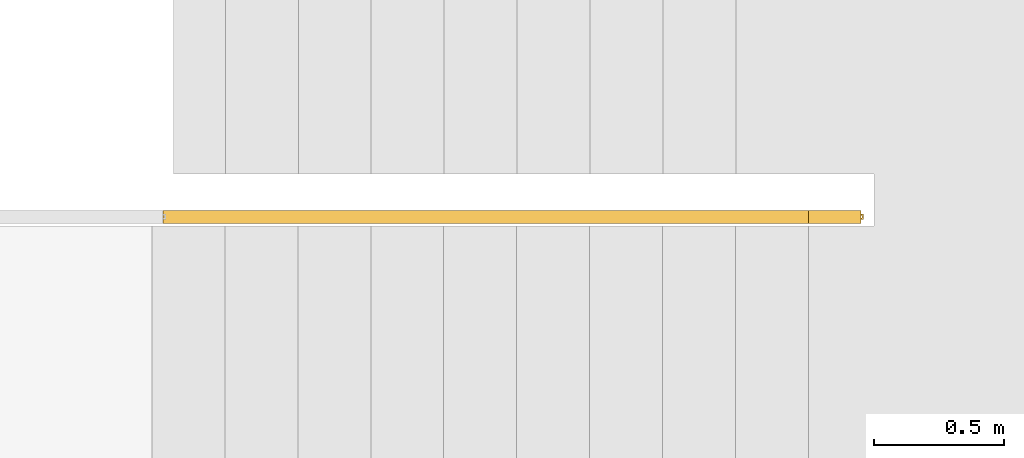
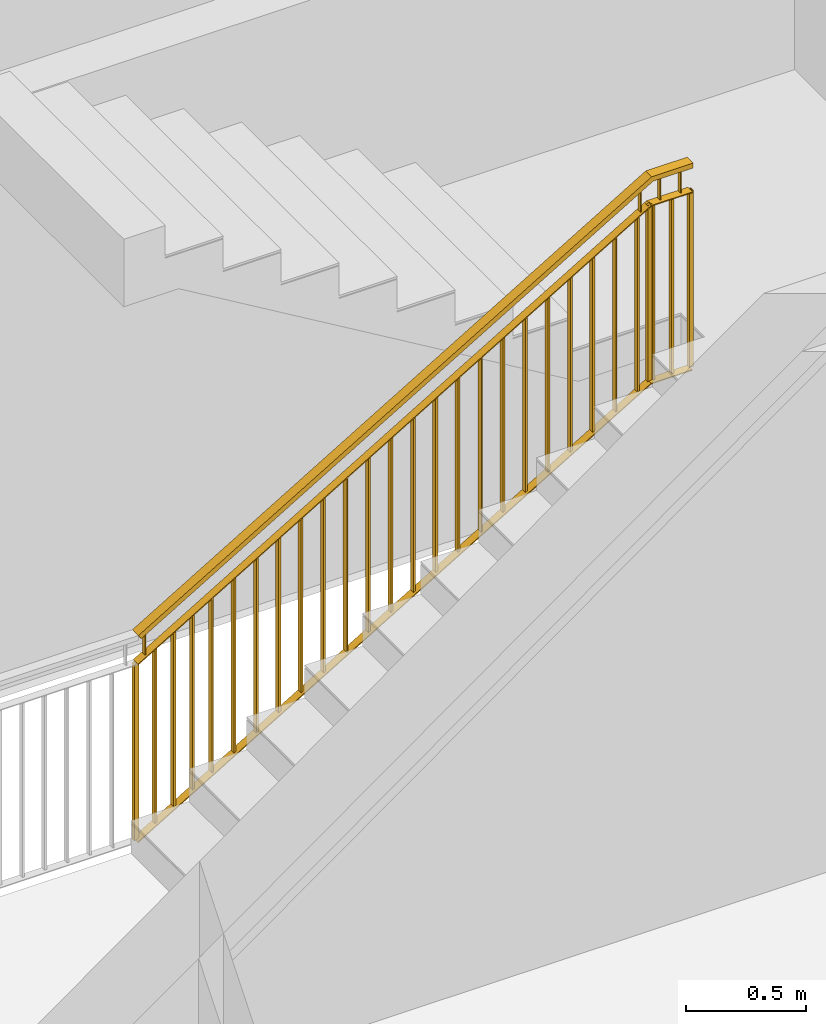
# One storey, part 4 of 67: 1 railing.
"""IFC2X3 building model written with IfcOpenShell, lengths in millimetres."""

from ifc_helpers import new_model, entity, si_unit, converted_unit, derived_unit, money_unit, direction, frame, origin_with_axes, place, context, subcontext, project, spatial, faceted_brep, material, material_list, type_object, element, save


model = new_model("IFC2X3")

# Units and contexts
model_context = context("Model", 3, precision=0.01, world=origin_with_axes(), true_north=direction((0.34421633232, 0.938890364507)))
body_context = subcontext(model_context, "Body", "Model", "MODEL_VIEW")
ifc_project = project(units=[si_unit("LENGTHUNIT", "METRE", prefix="MILLI"), si_unit("AREAUNIT", "SQUARE_METRE"), si_unit("VOLUMEUNIT", "CUBIC_METRE"), converted_unit("PLANEANGLEUNIT", "DEGREE", entity("IfcPlaneAngleMeasure", 0.0174532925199), si_unit("PLANEANGLEUNIT", "RADIAN"), dimensions=[0, 0, 0, 0, 0, 0, 0]), si_unit("SOLIDANGLEUNIT", "STERADIAN"), money_unit("USD"), converted_unit("TIMEUNIT", "Year", entity("IfcTimeMeasure", 31556926.0), si_unit("TIMEUNIT", "SECOND"), dimensions=[0, 0, 1, 0, 0, 0, 0]), si_unit("MASSUNIT", "GRAM", prefix="KILO"), si_unit("THERMODYNAMICTEMPERATUREUNIT", "DEGREE_CELSIUS"), si_unit("LUMINOUSINTENSITYUNIT", "LUMEN"), si_unit("ENERGYUNIT", "JOULE", prefix="MEGA"), derived_unit("THERMALCONDUCTANCEUNIT", [(si_unit("POWERUNIT", "WATT"), 1), (si_unit("LENGTHUNIT", "METRE"), -1), (si_unit("THERMODYNAMICTEMPERATUREUNIT", "KELVIN"), -1)]), derived_unit("SPECIFICHEATCAPACITYUNIT", [(si_unit("ENERGYUNIT", "JOULE"), 1), (si_unit("MASSUNIT", "GRAM", prefix="KILO"), -1), (si_unit("THERMODYNAMICTEMPERATUREUNIT", "KELVIN"), -1)]), derived_unit("MASSDENSITYUNIT", [(si_unit("MASSUNIT", "GRAM", prefix="KILO"), 1), (si_unit("VOLUMEUNIT", "CUBIC_METRE"), -1)])], contexts=[model_context])

# Site, building, storey
site_placement = place(None, origin_with_axes())
site = spatial("IfcSite", under=ifc_project, at=site_placement, Name="USTRONIE MORSKIE", CompositionType="ELEMENT")
building_placement = place(site_placement, origin_with_axes())
building = spatial("IfcBuilding", under=site, at=building_placement, Name="Budynek", CompositionType="ELEMENT")
storey_placement = place(building_placement, frame((0.0, 0.0, 4000.0), z_axis=(0.0, 0.0, 1.0), x_axis=(1.0, 0.0, 0.0)))
storey = spatial("IfcBuildingStorey", under=building, at=storey_placement, Name="PIĘTRO 1", CompositionType="ELEMENT", Elevation=4000.0)

# Railing
ifc_material_1 = material(Name="Stal konstrukcyjna")
ifc_material_2 = material(Name="Stal nierdzewna")
ifc_material_list = material_list([ifc_material_1, ifc_material_1, ifc_material_1, ifc_material_2, ifc_material_2, ifc_material_2, ifc_material_1, ifc_material_1, ifc_material_2, ifc_material_2, ifc_material_2, ifc_material_1, ifc_material_1, ifc_material_1, ifc_material_1, ifc_material_1, ifc_material_1, ifc_material_1, ifc_material_1, ifc_material_1, ifc_material_1, ifc_material_1, ifc_material_1, ifc_material_1, ifc_material_1, ifc_material_1, ifc_material_1, ifc_material_1, ifc_material_1, ifc_material_1, ifc_material_1, ifc_material_1, ifc_material_1, ifc_material_1])
railing_type = type_object("IfcRailingType", Name="Typ balustrady", PredefinedType="NOTDEFINED")
railing_placement = place(storey_placement, frame((365667.920919, 728301.19902, 190.561166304), z_axis=(0.0, 0.0, 1.0), x_axis=(1.0, 0.0, 0.0)))
element("IfcRailing", 1, at=railing_placement, inside=storey, type_object=railing_type, material=ifc_material_list, Name="BL1", PredefinedType="NOTDEFINED", context=body_context, shape_type="Brep", body=[
    faceted_brep([(-60.0, 45.0, 1324.4388337), (-60.0, 25.0, 1324.4388337), (-60.0, 25.0, 2224.4388337), (-60.0, 45.0, 2224.4388337), (-40.0, 45.0, 1324.4388337), (-40.0, 25.0, 1324.4388337), (-55.0, 40.0, 1324.4388337), (-55.0, 30.0, 1324.4388337), (-45.0, 30.0, 1324.4388337), (-45.0, 40.0, 1324.4388337), (-40.0, 25.0, 2224.4388337), (-40.0, 45.0, 2224.4388337), (-55.0, 40.0, 2224.4388337), (-45.0, 40.0, 2224.4388337), (-45.0, 30.0, 2224.4388337), (-55.0, 30.0, 2224.4388337)], [[[0, 1, 2, 3]], [[0, 4, 5, 1], [6, 7, 8, 9]], [[1, 5, 10, 2]], [[3, 2, 10, 11], [12, 13, 14, 15]], [[4, 0, 3, 11]], [[5, 4, 11, 10]], [[7, 6, 12, 15]], [[8, 7, 15, 14]], [[9, 8, 14, 13]], [[6, 9, 13, 12]]]),
    faceted_brep([(-260.0, 45.0, 1321.68950513), (-260.0, 25.0, 1321.68950513), (-260.0, 25.0, 2221.68950513), (-260.0, 45.0, 2221.68950513), (-240.0, 45.0, 1327.18816226), (-240.0, 25.0, 1327.18816226), (-255.0, 40.0, 1323.06416941), (-255.0, 30.0, 1323.06416941), (-245.0, 30.0, 1325.81349798), (-245.0, 40.0, 1325.81349798), (-240.0, 25.0, 2227.18816226), (-240.0, 45.0, 2227.18816226), (-255.0, 40.0, 2223.06416941), (-245.0, 40.0, 2225.81349798), (-245.0, 30.0, 2225.81349798), (-255.0, 30.0, 2223.06416941)], [[[0, 1, 2, 3]], [[0, 4, 5, 1], [6, 7, 8, 9]], [[1, 5, 10, 2]], [[3, 2, 10, 11], [12, 13, 14, 15]], [[4, 0, 3, 11]], [[5, 4, 11, 10]], [[7, 6, 12, 15]], [[8, 7, 15, 14]], [[9, 8, 14, 13]], [[6, 9, 13, 12]]]),
    faceted_brep([(-2738.76673491, 45.0, -155.948275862), (-2738.76673491, 25.0, -155.948275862), (-2738.76673491, 25.0, 744.051724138), (-2738.76673491, 45.0, 744.051724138), (-2718.76673491, 45.0, -144.051724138), (-2718.76673491, 25.0, -144.051724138), (-2733.76673491, 40.0, -152.974137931), (-2733.76673491, 30.0, -152.974137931), (-2723.76673491, 30.0, -147.025862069), (-2723.76673491, 40.0, -147.025862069), (-2718.76673491, 25.0, 755.948275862), (-2718.76673491, 45.0, 755.948275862), (-2733.76673491, 40.0, 747.025862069), (-2723.76673491, 40.0, 752.974137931), (-2723.76673491, 30.0, 752.974137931), (-2733.76673491, 30.0, 747.025862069)], [[[0, 1, 2, 3]], [[0, 4, 5, 1], [6, 7, 8, 9]], [[1, 5, 10, 2]], [[3, 2, 10, 11], [12, 13, 14, 15]], [[4, 0, 3, 11]], [[5, 4, 11, 10]], [[7, 6, 12, 15]], [[8, 7, 15, 14]], [[9, 8, 14, 13]], [[6, 9, 13, 12]]]),
    faceted_brep([(-50.0, 59.9999999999, 2374.4388337), (-50.0, 59.9999999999, 2349.4388337), (-243.12667858, 59.9999999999, 2349.4388337), (-250.0, 59.9999999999, 2374.4388337), (-50.0, 9.99999999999, 2374.4388337), (-50.0, 9.99999999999, 2349.4388337), (-50.0, 25.0, 2349.4388337), (-50.0, 25.0, 2354.4388337), (-50.0, 45.0, 2354.4388337), (-50.0, 45.0, 2349.4388337), (-243.12667858, 45.0, 2349.4388337), (-244.501342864, 45.0, 2354.4388337), (-244.501342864, 25.0, 2354.4388337), (-243.12667858, 25.0, 2349.4388337), (-243.12667858, 9.99999999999, 2349.4388337), (-250.0, 9.99999999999, 2374.4388337)], [[[0, 1, 2, 3]], [[0, 4, 5, 6, 7, 8, 9, 1]], [[1, 9, 10, 2]], [[3, 2, 10, 11, 12, 13, 14, 15]], [[4, 0, 3, 15]], [[5, 4, 15, 14]], [[6, 5, 14, 13]], [[7, 6, 13, 12]], [[8, 7, 12, 11]], [[9, 8, 11, 10]]]),
    faceted_brep([(-50.0, 45.0, 2349.4388337), (-50.0, 25.0, 2349.4388337), (-243.12667858, 25.0, 2349.4388337), (-243.12667858, 45.0, 2349.4388337), (-50.0, 45.0, 2354.4388337), (-50.0, 25.0, 2354.4388337), (-244.501342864, 25.0, 2354.4388337), (-244.501342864, 45.0, 2354.4388337)], [[[0, 1, 2, 3]], [[0, 4, 5, 1]], [[1, 5, 6, 2]], [[3, 2, 6, 7]], [[4, 0, 3, 7]], [[5, 4, 7, 6]]]),
    faceted_brep([(-102.5, 45.0, 2229.4388337), (-102.5, 25.0, 2229.4388337), (-102.5, 25.0, 2349.4388337), (-102.5, 45.0, 2349.4388337), (-97.5, 45.0, 2229.4388337), (-97.5, 25.0, 2229.4388337), (-97.5, 25.0, 2349.4388337), (-97.5, 45.0, 2349.4388337)], [[[0, 1, 2, 3]], [[0, 4, 5, 1]], [[1, 5, 6, 2]], [[3, 2, 6, 7]], [[4, 0, 3, 7]], [[5, 4, 7, 6]]]),
    faceted_brep([(-202.5, 45.0, 2229.4388337), (-202.5, 25.0, 2229.4388337), (-202.5, 25.0, 2349.4388337), (-202.5, 45.0, 2349.4388337), (-197.5, 45.0, 2229.4388337), (-197.5, 25.0, 2229.4388337), (-197.5, 25.0, 2349.4388337), (-197.5, 45.0, 2349.4388337)], [[[0, 1, 2, 3]], [[0, 4, 5, 1]], [[1, 5, 6, 2]], [[3, 2, 6, 7]], [[4, 0, 3, 7]], [[5, 4, 7, 6]]]),
    faceted_brep([(-50.0, 54.9999999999, 2224.4388337), (-50.0, 54.9999999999, 2219.4388337), (-248.625335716, 54.9999999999, 2219.4388337), (-250.0, 54.9999999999, 2224.4388337), (-50.0, 15.0, 2224.4388337), (-50.0, 15.0, 2219.4388337), (-248.625335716, 15.0, 2219.4388337), (-250.0, 15.0, 2224.4388337)], [[[0, 1, 2, 3]], [[0, 4, 5, 1]], [[1, 5, 6, 2]], [[3, 2, 6, 7]], [[4, 0, 3, 7]], [[5, 4, 7, 6]]]),
    faceted_brep([(-50.0, 54.9999999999, 1316.9388337), (-50.0, 54.9999999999, 1311.9388337), (-249.312667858, 54.9999999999, 1311.9388337), (-250.687332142, 54.9999999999, 1316.9388337), (-50.0, 15.0, 1316.9388337), (-50.0, 15.0, 1311.9388337), (-249.312667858, 15.0, 1311.9388337), (-250.687332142, 15.0, 1316.9388337)], [[[0, 1, 2, 3]], [[0, 4, 5, 1]], [[1, 5, 6, 2]], [[3, 2, 6, 7]], [[4, 0, 3, 7]], [[5, 4, 7, 6]]]),
    faceted_brep([(-146.095841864, 47.5, 1324.4388337), (-146.095841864, 22.4999999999, 1324.4388337), (-146.095841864, 22.4999999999, 2214.4388337), (-146.095841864, 47.5, 2214.4388337), (-136.095841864, 47.5, 1324.4388337), (-136.095841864, 22.4999999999, 1324.4388337), (-136.095841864, 22.4999999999, 2214.4388337), (-136.095841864, 47.5, 2214.4388337)], [[[0, 1, 2, 3]], [[0, 4, 5, 1]], [[1, 5, 6, 2]], [[3, 2, 6, 7]], [[4, 0, 3, 7]], [[5, 4, 7, 6]]]),
    faceted_brep([(-237.191683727, 47.5, 1324.4388337), (-237.191683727, 22.4999999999, 1324.4388337), (-237.191683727, 22.4999999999, 2214.4388337), (-237.191683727, 47.5, 2214.4388337), (-227.191683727, 47.5, 1324.4388337), (-227.191683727, 22.4999999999, 1324.4388337), (-227.191683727, 22.4999999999, 2214.4388337), (-227.191683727, 47.5, 2214.4388337)], [[[0, 1, 2, 3]], [[0, 4, 5, 1]], [[1, 5, 6, 2]], [[3, 2, 6, 7]], [[4, 0, 3, 7]], [[5, 4, 7, 6]]]),
    faceted_brep([(-250.0, 59.9999999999, 2374.4388337), (-243.12667858, 59.9999999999, 2349.4388337), (-2715.98615176, 59.9999999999, 878.513802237), (-2728.76673491, 59.9999999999, 900.0), (-250.0, 9.99999999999, 2374.4388337), (-243.12667858, 9.99999999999, 2349.4388337), (-243.12667858, 25.0, 2349.4388337), (-244.501342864, 25.0, 2354.4388337), (-244.501342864, 45.0, 2354.4388337), (-243.12667858, 45.0, 2349.4388337), (-2715.98615176, 45.0, 878.513802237), (-2718.54226839, 45.0, 882.81104179), (-2718.54226839, 25.0, 882.81104179), (-2715.98615176, 25.0, 878.513802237), (-2715.98615176, 9.99999999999, 878.513802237), (-2728.76673491, 9.99999999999, 900.0)], [[[0, 1, 2, 3]], [[0, 4, 5, 6, 7, 8, 9, 1]], [[1, 9, 10, 2]], [[3, 2, 10, 11, 12, 13, 14, 15]], [[4, 0, 3, 15]], [[5, 4, 15, 14]], [[6, 5, 14, 13]], [[7, 6, 13, 12]], [[8, 7, 12, 11]], [[9, 8, 11, 10]]]),
    faceted_brep([(-243.12667858, 45.0, 2349.4388337), (-243.12667858, 25.0, 2349.4388337), (-2715.98615176, 25.0, 878.513802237), (-2715.98615176, 45.0, 878.513802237), (-244.501342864, 45.0, 2354.4388337), (-244.501342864, 25.0, 2354.4388337), (-2718.54226839, 25.0, 882.81104179), (-2718.54226839, 45.0, 882.81104179)], [[[0, 1, 2, 3]], [[0, 4, 5, 1]], [[1, 5, 6, 2]], [[3, 2, 6, 7]], [[4, 0, 3, 7]], [[5, 4, 7, 6]]]),
    faceted_brep([(-295.472395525, 45.0, 2199.7892262), (-295.472395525, 25.0, 2199.7892262), (-295.472395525, 25.0, 2319.7892262), (-295.472395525, 45.0, 2319.7892262), (-290.472395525, 45.0, 2199.7892262), (-290.472395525, 25.0, 2199.7892262), (-290.472395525, 25.0, 2321.27629517), (-292.972395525, 25.0, 2321.27629517), (-292.972395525, 45.0, 2321.27629517), (-290.472395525, 45.0, 2321.27629517)], [[[0, 1, 2, 3]], [[0, 4, 5, 1]], [[1, 5, 6, 7, 2]], [[7, 8, 3, 2]], [[4, 0, 3, 8, 9]], [[5, 4, 9, 6]], [[7, 6, 9, 8]]]),
    faceted_brep([(-2688.29433938, 45.0, 776.472725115), (-2688.29433938, 25.0, 776.472725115), (-2688.29433938, 25.0, 896.472725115), (-2688.29433938, 45.0, 896.472725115), (-2683.29433938, 45.0, 776.472725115), (-2683.29433938, 25.0, 776.472725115), (-2683.29433938, 25.0, 897.95979408), (-2685.79433938, 25.0, 897.95979408), (-2685.79433938, 45.0, 897.95979408), (-2683.29433938, 45.0, 897.95979408)], [[[0, 1, 2, 3]], [[0, 4, 5, 1]], [[1, 5, 6, 7, 2]], [[7, 8, 3, 2]], [[4, 0, 3, 8, 9]], [[5, 4, 9, 6]], [[7, 6, 9, 8]]]),
    faceted_brep([(-250.0, 54.9999999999, 2224.4388337), (-248.625335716, 54.9999999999, 2219.4388337), (-2726.21061828, 54.9999999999, 745.702760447), (-2728.76673491, 54.9999999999, 750.0), (-250.0, 15.0, 2224.4388337), (-248.625335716, 15.0, 2219.4388337), (-2726.21061828, 15.0, 745.702760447), (-2728.76673491, 15.0, 750.0)], [[[0, 1, 2, 3]], [[0, 4, 5, 1]], [[1, 5, 6, 2]], [[3, 2, 6, 7]], [[4, 0, 3, 7]], [[5, 4, 7, 6]]]),
    faceted_brep([(-250.687332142, 54.9999999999, 1316.9388337), (-249.312667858, 54.9999999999, 1311.9388337), (-2727.48867659, 54.9999999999, -162.148619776), (-2730.04479322, 54.9999999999, -157.851380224), (-250.687332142, 15.0, 1316.9388337), (-249.312667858, 15.0, 1311.9388337), (-2727.48867659, 15.0, -162.148619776), (-2730.04479322, 15.0, -157.851380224)], [[[0, 1, 2, 3]], [[0, 4, 5, 1]], [[1, 5, 6, 2]], [[3, 2, 6, 7]], [[4, 0, 3, 7]], [[5, 4, 7, 6]]]),
    faceted_brep([(-311.050034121, 47.5, 1288.12458926), (-311.050034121, 22.4999999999, 1288.12458926), (-311.050034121, 22.4999999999, 2178.12458926), (-311.050034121, 47.5, 2178.12458926), (-301.050034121, 47.5, 1294.07286512), (-301.050034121, 22.4999999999, 1294.07286512), (-301.050034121, 22.4999999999, 2184.07286512), (-301.050034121, 47.5, 2184.07286512)], [[[0, 1, 2, 3]], [[0, 4, 5, 1]], [[1, 5, 6, 2]], [[3, 2, 6, 7]], [[4, 0, 3, 7]], [[5, 4, 7, 6]]]),
    faceted_brep([(-416.883367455, 50.0, 1225.17200305), (-416.883367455, 20.0, 1225.17200305), (-416.883367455, 20.0, 2115.17200305), (-416.883367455, 50.0, 2115.17200305), (-411.883367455, 50.0, 1228.14614099), (-411.883367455, 20.0, 1228.14614099), (-411.883367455, 20.0, 2118.14614099), (-411.883367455, 50.0, 2118.14614099)], [[[0, 1, 2, 3]], [[0, 4, 5, 1]], [[1, 5, 6, 2]], [[3, 2, 6, 7]], [[4, 0, 3, 7]], [[5, 4, 7, 6]]]),
    faceted_brep([(-527.716700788, 47.5, 1159.24527892), (-527.716700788, 22.4999999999, 1159.24527892), (-527.716700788, 22.4999999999, 2049.24527892), (-527.716700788, 47.5, 2049.24527892), (-517.716700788, 47.5, 1165.19355478), (-517.716700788, 22.4999999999, 1165.19355478), (-517.716700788, 22.4999999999, 2055.19355478), (-517.716700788, 47.5, 2055.19355478)], [[[0, 1, 2, 3]], [[0, 4, 5, 1]], [[1, 5, 6, 2]], [[3, 2, 6, 7]], [[4, 0, 3, 7]], [[5, 4, 7, 6]]]),
    faceted_brep([(-636.050034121, 47.5, 1094.80562374), (-636.050034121, 22.4999999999, 1094.80562374), (-636.050034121, 22.4999999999, 1984.80562374), (-636.050034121, 47.5, 1984.80562374), (-626.050034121, 47.5, 1100.75389961), (-626.050034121, 22.4999999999, 1100.75389961), (-626.050034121, 22.4999999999, 1990.75389961), (-626.050034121, 47.5, 1990.75389961)], [[[0, 1, 2, 3]], [[0, 4, 5, 1]], [[1, 5, 6, 2]], [[3, 2, 6, 7]], [[4, 0, 3, 7]], [[5, 4, 7, 6]]]),
    faceted_brep([(-744.383367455, 47.5, 1030.36596857), (-744.383367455, 22.4999999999, 1030.36596857), (-744.383367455, 22.4999999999, 1920.36596857), (-744.383367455, 47.5, 1920.36596857), (-734.383367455, 47.5, 1036.31424443), (-734.383367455, 22.4999999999, 1036.31424443), (-734.383367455, 22.4999999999, 1926.31424443), (-734.383367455, 47.5, 1926.31424443)], [[[0, 1, 2, 3]], [[0, 4, 5, 1]], [[1, 5, 6, 2]], [[3, 2, 6, 7]], [[4, 0, 3, 7]], [[5, 4, 7, 6]]]),
    faceted_brep([(-852.716700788, 47.5, 965.9263134), (-852.716700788, 22.4999999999, 965.9263134), (-852.716700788, 22.4999999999, 1855.9263134), (-852.716700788, 47.5, 1855.9263134), (-842.716700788, 47.5, 971.874589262), (-842.716700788, 22.4999999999, 971.874589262), (-842.716700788, 22.4999999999, 1861.87458926), (-842.716700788, 47.5, 1861.87458926)], [[[0, 1, 2, 3]], [[0, 4, 5, 1]], [[1, 5, 6, 2]], [[3, 2, 6, 7]], [[4, 0, 3, 7]], [[5, 4, 7, 6]]]),
    faceted_brep([(-961.050034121, 47.5, 901.486658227), (-961.050034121, 22.4999999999, 901.486658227), (-961.050034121, 22.4999999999, 1791.48665823), (-961.050034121, 47.5, 1791.48665823), (-951.050034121, 47.5, 907.434934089), (-951.050034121, 22.4999999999, 907.434934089), (-951.050034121, 22.4999999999, 1797.43493409), (-951.050034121, 47.5, 1797.43493409)], [[[0, 1, 2, 3]], [[0, 4, 5, 1]], [[1, 5, 6, 2]], [[3, 2, 6, 7]], [[4, 0, 3, 7]], [[5, 4, 7, 6]]]),
    faceted_brep([(-1066.88336745, 50.0, 838.53407202), (-1066.88336745, 20.0, 838.53407202), (-1066.88336745, 20.0, 1728.53407202), (-1066.88336745, 50.0, 1728.53407202), (-1061.88336745, 50.0, 841.508209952), (-1061.88336745, 20.0, 841.508209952), (-1061.88336745, 20.0, 1731.50820995), (-1061.88336745, 50.0, 1731.50820995)], [[[0, 1, 2, 3]], [[0, 4, 5, 1]], [[1, 5, 6, 2]], [[3, 2, 6, 7]], [[4, 0, 3, 7]], [[5, 4, 7, 6]]]),
    faceted_brep([(-1177.71670079, 47.5, 772.607347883), (-1177.71670079, 22.4999999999, 772.607347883), (-1177.71670079, 22.4999999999, 1662.60734788), (-1177.71670079, 47.5, 1662.60734788), (-1167.71670079, 47.5, 778.555623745), (-1167.71670079, 22.4999999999, 778.555623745), (-1167.71670079, 22.4999999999, 1668.55562374), (-1167.71670079, 47.5, 1668.55562374)], [[[0, 1, 2, 3]], [[0, 4, 5, 1]], [[1, 5, 6, 2]], [[3, 2, 6, 7]], [[4, 0, 3, 7]], [[5, 4, 7, 6]]]),
    faceted_brep([(-1286.05003412, 47.5, 708.16769271), (-1286.05003412, 22.4999999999, 708.16769271), (-1286.05003412, 22.4999999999, 1598.16769271), (-1286.05003412, 47.5, 1598.16769271), (-1276.05003412, 47.5, 714.115968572), (-1276.05003412, 22.4999999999, 714.115968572), (-1276.05003412, 22.4999999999, 1604.11596857), (-1276.05003412, 47.5, 1604.11596857)], [[[0, 1, 2, 3]], [[0, 4, 5, 1]], [[1, 5, 6, 2]], [[3, 2, 6, 7]], [[4, 0, 3, 7]], [[5, 4, 7, 6]]]),
    faceted_brep([(-1394.38336745, 47.5, 643.728037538), (-1394.38336745, 22.4999999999, 643.728037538), (-1394.38336745, 22.4999999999, 1533.72803754), (-1394.38336745, 47.5, 1533.72803754), (-1384.38336745, 47.5, 649.6763134), (-1384.38336745, 22.4999999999, 649.6763134), (-1384.38336745, 22.4999999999, 1539.6763134), (-1384.38336745, 47.5, 1539.6763134)], [[[0, 1, 2, 3]], [[0, 4, 5, 1]], [[1, 5, 6, 2]], [[3, 2, 6, 7]], [[4, 0, 3, 7]], [[5, 4, 7, 6]]]),
    faceted_brep([(-1502.71670079, 47.5, 579.288382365), (-1502.71670079, 22.4999999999, 579.288382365), (-1502.71670079, 22.4999999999, 1469.28838237), (-1502.71670079, 47.5, 1469.28838237), (-1492.71670079, 47.5, 585.236658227), (-1492.71670079, 22.4999999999, 585.236658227), (-1492.71670079, 22.4999999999, 1475.23665823), (-1492.71670079, 47.5, 1475.23665823)], [[[0, 1, 2, 3]], [[0, 4, 5, 1]], [[1, 5, 6, 2]], [[3, 2, 6, 7]], [[4, 0, 3, 7]], [[5, 4, 7, 6]]]),
    faceted_brep([(-1611.05003412, 47.5, 514.848727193), (-1611.05003412, 22.4999999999, 514.848727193), (-1611.05003412, 22.4999999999, 1404.84872719), (-1611.05003412, 47.5, 1404.84872719), (-1601.05003412, 47.5, 520.797003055), (-1601.05003412, 22.4999999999, 520.797003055), (-1601.05003412, 22.4999999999, 1410.79700305), (-1601.05003412, 47.5, 1410.79700305)], [[[0, 1, 2, 3]], [[0, 4, 5, 1]], [[1, 5, 6, 2]], [[3, 2, 6, 7]], [[4, 0, 3, 7]], [[5, 4, 7, 6]]]),
    faceted_brep([(-1716.88336745, 50.0, 451.896140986), (-1716.88336745, 20.0, 451.896140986), (-1716.88336745, 20.0, 1341.89614099), (-1716.88336745, 50.0, 1341.89614099), (-1711.88336745, 50.0, 454.870278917), (-1711.88336745, 20.0, 454.870278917), (-1711.88336745, 20.0, 1344.87027892), (-1711.88336745, 50.0, 1344.87027892)], [[[0, 1, 2, 3]], [[0, 4, 5, 1]], [[1, 5, 6, 2]], [[3, 2, 6, 7]], [[4, 0, 3, 7]], [[5, 4, 7, 6]]]),
    faceted_brep([(-1827.71670079, 47.5, 385.969416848), (-1827.71670079, 22.4999999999, 385.969416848), (-1827.71670079, 22.4999999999, 1275.96941685), (-1827.71670079, 47.5, 1275.96941685), (-1817.71670079, 47.5, 391.91769271), (-1817.71670079, 22.4999999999, 391.91769271), (-1817.71670079, 22.4999999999, 1281.91769271), (-1817.71670079, 47.5, 1281.91769271)], [[[0, 1, 2, 3]], [[0, 4, 5, 1]], [[1, 5, 6, 2]], [[3, 2, 6, 7]], [[4, 0, 3, 7]], [[5, 4, 7, 6]]]),
    faceted_brep([(-1936.05003412, 47.5, 321.529761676), (-1936.05003412, 22.4999999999, 321.529761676), (-1936.05003412, 22.4999999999, 1211.52976168), (-1936.05003412, 47.5, 1211.52976168), (-1926.05003412, 47.5, 327.478037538), (-1926.05003412, 22.4999999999, 327.478037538), (-1926.05003412, 22.4999999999, 1217.47803754), (-1926.05003412, 47.5, 1217.47803754)], [[[0, 1, 2, 3]], [[0, 4, 5, 1]], [[1, 5, 6, 2]], [[3, 2, 6, 7]], [[4, 0, 3, 7]], [[5, 4, 7, 6]]]),
    faceted_brep([(-2044.38336745, 47.5, 257.090106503), (-2044.38336745, 22.4999999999, 257.090106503), (-2044.38336745, 22.4999999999, 1147.0901065), (-2044.38336745, 47.5, 1147.0901065), (-2034.38336745, 47.5, 263.038382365), (-2034.38336745, 22.4999999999, 263.038382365), (-2034.38336745, 22.4999999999, 1153.03838237), (-2034.38336745, 47.5, 1153.03838237)], [[[0, 1, 2, 3]], [[0, 4, 5, 1]], [[1, 5, 6, 2]], [[3, 2, 6, 7]], [[4, 0, 3, 7]], [[5, 4, 7, 6]]]),
    faceted_brep([(-2152.71670079, 47.5, 192.650451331), (-2152.71670079, 22.4999999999, 192.650451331), (-2152.71670079, 22.4999999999, 1082.65045133), (-2152.71670079, 47.5, 1082.65045133), (-2142.71670079, 47.5, 198.598727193), (-2142.71670079, 22.4999999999, 198.598727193), (-2142.71670079, 22.4999999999, 1088.59872719), (-2142.71670079, 47.5, 1088.59872719)], [[[0, 1, 2, 3]], [[0, 4, 5, 1]], [[1, 5, 6, 2]], [[3, 2, 6, 7]], [[4, 0, 3, 7]], [[5, 4, 7, 6]]]),
    faceted_brep([(-2261.05003412, 47.5, 128.210796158), (-2261.05003412, 22.4999999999, 128.210796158), (-2261.05003412, 22.4999999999, 1018.21079616), (-2261.05003412, 47.5, 1018.21079616), (-2251.05003412, 47.5, 134.15907202), (-2251.05003412, 22.4999999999, 134.15907202), (-2251.05003412, 22.4999999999, 1024.15907202), (-2251.05003412, 47.5, 1024.15907202)], [[[0, 1, 2, 3]], [[0, 4, 5, 1]], [[1, 5, 6, 2]], [[3, 2, 6, 7]], [[4, 0, 3, 7]], [[5, 4, 7, 6]]]),
    faceted_brep([(-2366.88336745, 50.0, 65.2582099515), (-2366.88336745, 20.0, 65.2582099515), (-2366.88336745, 20.0, 955.258209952), (-2366.88336745, 50.0, 955.258209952), (-2361.88336745, 50.0, 68.2323478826), (-2361.88336745, 20.0, 68.2323478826), (-2361.88336745, 20.0, 958.232347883), (-2361.88336745, 50.0, 958.232347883)], [[[0, 1, 2, 3]], [[0, 4, 5, 1]], [[1, 5, 6, 2]], [[3, 2, 6, 7]], [[4, 0, 3, 7]], [[5, 4, 7, 6]]]),
    faceted_brep([(-2460.47920932, 47.5, 9.58482125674), (-2460.47920932, 22.4999999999, 9.58482125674), (-2460.47920932, 22.4999999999, 899.584821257), (-2460.47920932, 47.5, 899.584821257), (-2450.47920932, 47.5, 15.5330971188), (-2450.47920932, 22.4999999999, 15.5330971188), (-2450.47920932, 22.4999999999, 905.533097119), (-2450.47920932, 47.5, 905.533097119)], [[[0, 1, 2, 3]], [[0, 4, 5, 1]], [[1, 5, 6, 2]], [[3, 2, 6, 7]], [[4, 0, 3, 7]], [[5, 4, 7, 6]]]),
    faceted_brep([(-2551.57505118, 47.5, -44.6014984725), (-2551.57505118, 22.4999999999, -44.6014984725), (-2551.57505118, 22.4999999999, 845.398501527), (-2551.57505118, 47.5, 845.398501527), (-2541.57505118, 47.5, -38.6532226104), (-2541.57505118, 22.4999999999, -38.6532226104), (-2541.57505118, 22.4999999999, 851.34677739), (-2541.57505118, 47.5, 851.34677739)], [[[0, 1, 2, 3]], [[0, 4, 5, 1]], [[1, 5, 6, 2]], [[3, 2, 6, 7]], [[4, 0, 3, 7]], [[5, 4, 7, 6]]]),
    faceted_brep([(-2642.67089305, 47.5, -98.7878182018), (-2642.67089305, 22.4999999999, -98.7878182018), (-2642.67089305, 22.4999999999, 791.212181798), (-2642.67089305, 47.5, 791.212181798), (-2632.67089305, 47.5, -92.8395423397), (-2632.67089305, 22.4999999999, -92.8395423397), (-2632.67089305, 22.4999999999, 797.16045766), (-2632.67089305, 47.5, 797.16045766)], [[[0, 1, 2, 3]], [[0, 4, 5, 1]], [[1, 5, 6, 2]], [[3, 2, 6, 7]], [[4, 0, 3, 7]], [[5, 4, 7, 6]]]),
])

save(model, "model.ifc")
